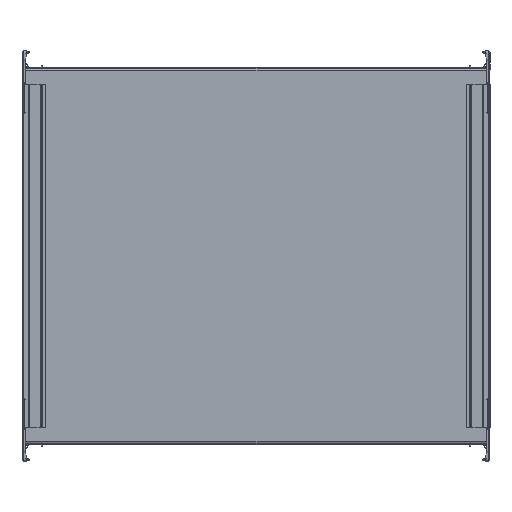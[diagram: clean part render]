
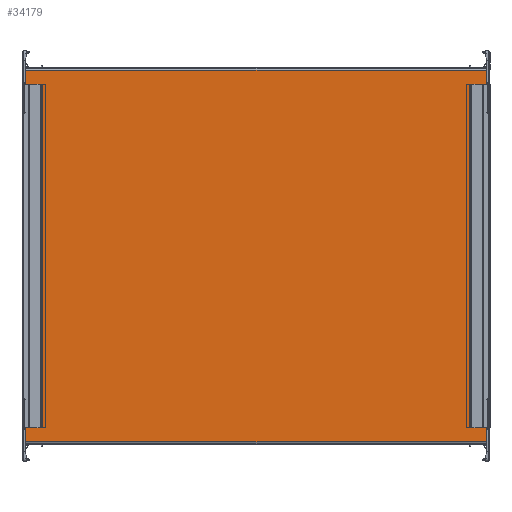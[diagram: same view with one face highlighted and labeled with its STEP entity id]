
A CAD part, front view. The second image highlights one B-rep face of the part: STEP entity #34179.
In plain terms, the highlighted planar face has unit normal (0, -1, 0).
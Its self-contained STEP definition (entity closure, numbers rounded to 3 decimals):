
#1943=FACE_BOUND('',#5315,.T.);
#1944=FACE_BOUND('',#5316,.T.);
#3461=FACE_OUTER_BOUND('',#5314,.T.);
#5314=EDGE_LOOP('',(#27437,#27438,#27439,#27440,#27441,#27442,#27443,#27444));
#5315=EDGE_LOOP('',(#27445,#27446,#27447,#27448));
#5316=EDGE_LOOP('',(#27449,#27450,#27451,#27452));
#7292=LINE('',#54751,#10353);
#7942=LINE('',#57917,#11003);
#7959=LINE('',#57978,#11020);
#7987=LINE('',#58041,#11048);
#7989=LINE('',#58044,#11050);
#7994=LINE('',#58057,#11055);
#7999=LINE('',#58066,#11060);
#8007=LINE('',#58083,#11068);
#8008=LINE('',#58085,#11069);
#8009=LINE('',#58087,#11070);
#8010=LINE('',#58089,#11071);
#8011=LINE('',#58090,#11072);
#8012=LINE('',#58093,#11073);
#8013=LINE('',#58095,#11074);
#8014=LINE('',#58097,#11075);
#8015=LINE('',#58098,#11076);
#10353=VECTOR('',#40145,10.);
#11003=VECTOR('',#42369,10.);
#11020=VECTOR('',#42416,10.);
#11048=VECTOR('',#42506,10.);
#11050=VECTOR('',#42510,10.);
#11055=VECTOR('',#42529,10.);
#11060=VECTOR('',#42536,10.);
#11068=VECTOR('',#42548,10.);
#11069=VECTOR('',#42549,10.);
#11070=VECTOR('',#42550,10.);
#11071=VECTOR('',#42551,10.);
#11072=VECTOR('',#42552,10.);
#11073=VECTOR('',#42553,10.);
#11074=VECTOR('',#42554,10.);
#11075=VECTOR('',#42555,10.);
#11076=VECTOR('',#42556,10.);
#14299=VERTEX_POINT('',#54748);
#14300=VERTEX_POINT('',#54750);
#14325=VERTEX_POINT('',#54800);
#14953=VERTEX_POINT('',#57916);
#14981=VERTEX_POINT('',#57975);
#14982=VERTEX_POINT('',#57977);
#14987=VERTEX_POINT('',#58056);
#14990=VERTEX_POINT('',#58064);
#14997=VERTEX_POINT('',#58082);
#14998=VERTEX_POINT('',#58084);
#14999=VERTEX_POINT('',#58086);
#15000=VERTEX_POINT('',#58088);
#15001=VERTEX_POINT('',#58091);
#15002=VERTEX_POINT('',#58092);
#15003=VERTEX_POINT('',#58094);
#15004=VERTEX_POINT('',#58096);
#18164=EDGE_CURVE('',#14300,#14299,#7292,.T.);
#19236=EDGE_CURVE('',#14953,#14325,#7942,.T.);
#19267=EDGE_CURVE('',#14982,#14981,#7959,.T.);
#19299=EDGE_CURVE('',#14981,#14300,#7987,.T.);
#19301=EDGE_CURVE('',#14982,#14299,#7989,.T.);
#19306=EDGE_CURVE('',#14987,#14953,#7994,.T.);
#19311=EDGE_CURVE('',#14325,#14990,#7999,.T.);
#19319=EDGE_CURVE('',#14990,#14997,#8007,.T.);
#19320=EDGE_CURVE('',#14997,#14998,#8008,.T.);
#19321=EDGE_CURVE('',#14999,#14998,#8009,.T.);
#19322=EDGE_CURVE('',#14999,#15000,#8010,.T.);
#19323=EDGE_CURVE('',#15000,#14987,#8011,.T.);
#19324=EDGE_CURVE('',#15001,#15002,#8012,.T.);
#19325=EDGE_CURVE('',#15003,#15002,#8013,.T.);
#19326=EDGE_CURVE('',#15003,#15004,#8014,.T.);
#19327=EDGE_CURVE('',#15004,#15001,#8015,.T.);
#27437=ORIENTED_EDGE('',*,*,#19319,.T.);
#27438=ORIENTED_EDGE('',*,*,#19320,.T.);
#27439=ORIENTED_EDGE('',*,*,#19321,.F.);
#27440=ORIENTED_EDGE('',*,*,#19322,.T.);
#27441=ORIENTED_EDGE('',*,*,#19323,.T.);
#27442=ORIENTED_EDGE('',*,*,#19306,.T.);
#27443=ORIENTED_EDGE('',*,*,#19236,.T.);
#27444=ORIENTED_EDGE('',*,*,#19311,.T.);
#27445=ORIENTED_EDGE('',*,*,#19324,.T.);
#27446=ORIENTED_EDGE('',*,*,#19325,.F.);
#27447=ORIENTED_EDGE('',*,*,#19326,.T.);
#27448=ORIENTED_EDGE('',*,*,#19327,.T.);
#27449=ORIENTED_EDGE('',*,*,#19301,.F.);
#27450=ORIENTED_EDGE('',*,*,#19267,.T.);
#27451=ORIENTED_EDGE('',*,*,#19299,.T.);
#27452=ORIENTED_EDGE('',*,*,#18164,.T.);
#31372=PLANE('',#36340);
#34179=ADVANCED_FACE('',(#3461,#1943,#1944),#31372,.F.);
#36340=AXIS2_PLACEMENT_3D('',#58081,#42546,#42547);
#40145=DIRECTION('',(1.,0.,0.));
#42369=DIRECTION('',(0.,0.,1.));
#42416=DIRECTION('',(-1.,0.,0.));
#42506=DIRECTION('',(0.,0.,1.));
#42510=DIRECTION('',(0.,0.,1.));
#42529=DIRECTION('',(0.,0.,1.));
#42536=DIRECTION('',(0.,0.,1.));
#42546=DIRECTION('center_axis',(0.,1.,0.));
#42547=DIRECTION('ref_axis',(0.,0.,1.));
#42548=DIRECTION('',(-1.,0.,0.));
#42549=DIRECTION('',(0.,0.,-1.));
#42550=DIRECTION('',(0.,0.,1.));
#42551=DIRECTION('',(0.,0.,-1.));
#42552=DIRECTION('',(1.,0.,0.));
#42553=DIRECTION('',(-1.,0.,0.));
#42554=DIRECTION('',(0.,0.,-1.));
#42555=DIRECTION('',(1.,0.,0.));
#42556=DIRECTION('',(0.,0.,-1.));
#54748=CARTESIAN_POINT('',(468.481,-214.342,368.));
#54750=CARTESIAN_POINT('',(456.761,-214.342,368.));
#54751=CARTESIAN_POINT('',(347.029,-214.342,368.));
#54800=CARTESIAN_POINT('',(475.536,-214.342,368.));
#57916=CARTESIAN_POINT('',(475.536,-214.342,0.));
#57917=CARTESIAN_POINT('',(475.536,-214.342,-17.));
#57975=CARTESIAN_POINT('',(456.761,-214.342,0.));
#57977=CARTESIAN_POINT('',(468.481,-214.342,0.));
#57978=CARTESIAN_POINT('',(347.029,-214.342,0.));
#58041=CARTESIAN_POINT('',(456.761,-214.342,0.));
#58044=CARTESIAN_POINT('',(468.481,-214.342,0.));
#58056=CARTESIAN_POINT('',(475.536,-214.342,-15.));
#58057=CARTESIAN_POINT('',(475.536,-214.342,-17.));
#58064=CARTESIAN_POINT('',(475.536,-214.342,383.));
#58066=CARTESIAN_POINT('',(475.536,-214.342,-17.));
#58081=CARTESIAN_POINT('Origin',(225.536,-214.342,184.));
#58082=CARTESIAN_POINT('',(-24.464,-214.342,383.));
#58083=CARTESIAN_POINT('',(350.536,-214.342,383.));
#58084=CARTESIAN_POINT('',(-24.464,-214.342,368.));
#58085=CARTESIAN_POINT('',(-24.464,-214.342,385.));
#58086=CARTESIAN_POINT('',(-24.464,-214.342,0.));
#58087=CARTESIAN_POINT('',(-24.464,-214.342,276.));
#58088=CARTESIAN_POINT('',(-24.464,-214.342,-15.));
#58089=CARTESIAN_POINT('',(-24.464,-214.342,385.));
#58090=CARTESIAN_POINT('',(100.536,-214.342,-15.));
#58091=CARTESIAN_POINT('',(-5.689,-214.342,0.));
#58092=CARTESIAN_POINT('',(-17.408,-214.342,0.));
#58093=CARTESIAN_POINT('',(-17.408,-214.342,0.));
#58094=CARTESIAN_POINT('',(-17.408,-214.342,368.));
#58095=CARTESIAN_POINT('',(-17.408,-214.342,368.));
#58096=CARTESIAN_POINT('',(-5.689,-214.342,368.));
#58097=CARTESIAN_POINT('',(-17.408,-214.342,368.));
#58098=CARTESIAN_POINT('',(-5.689,-214.342,368.));
